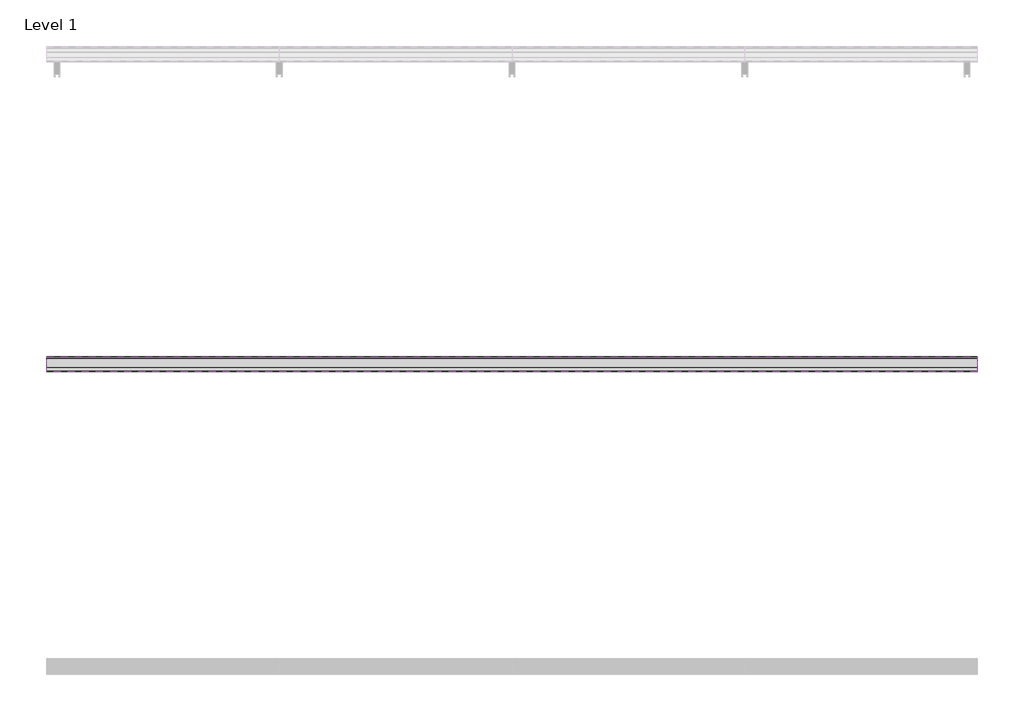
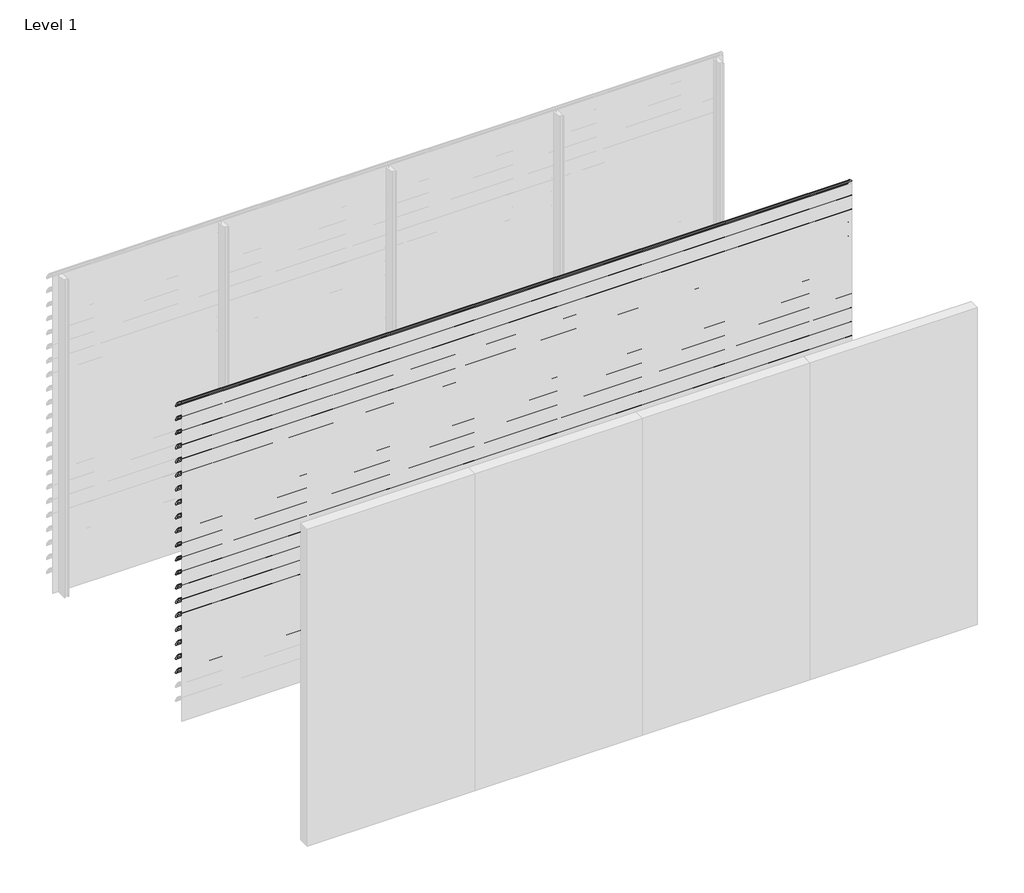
# One storey, part 36 of 57: 20 proxies.
"""IFC4 building model written with IfcOpenShell, lengths in millimetres."""

from ifc_helpers import new_model, si_unit, point, frame, frame_2d, origin, place, context, project, spatial, polyline, circle_curve, trimmed, segment, composite_curve, outline, extrude, element, save

model = new_model("IFC4")

# Units and contexts
model_context = context("Model", 3, world=origin())
ifc_project = project(units=[si_unit("LENGTHUNIT", "METRE", prefix="MILLI")], contexts=[model_context])

# Site, building, storey
site = spatial("IfcSite", under=ifc_project)
building = spatial("IfcBuilding", under=site)
storey = spatial("IfcBuildingStorey", under=building, Name="Level 1", Elevation=0.0)

# Proxies
placement = place(None, origin())
element("IfcBuildingElementProxy", 1, Name="Wall Sweeps", at=placement, inside=storey, context=model_context, shape_type="SweptSolid", body=[
    extrude(outline(composite_curve([segment(trimmed(circle_curve(frame_2d((-19993.7822526, 3016.4913792)), 4.2177474), [point((-19989.6985606, 3017.5462976))], [point((-19993.7822526, 3020.7091266))], False, "CARTESIAN"), True, "CONTINUOUS"), segment(trimmed(circle_curve(frame_2d((-20018.7150834, 2918.2536312)), 105.4456002), [point((-19993.7822526, 3020.7091266))], [point((-19971.7914298, 3012.6832099))], False, "CARTESIAN"), True, "CONTINUOUS"), segment(trimmed(circle_curve(frame_2d((-20061.7199745, 2864.0352476)), 173.7335887), [point((-19971.7914298, 3012.6832099))], [point((-19913.0720121, 2953.9637922))], False, "CARTESIAN"), True, "CONTINUOUS"), segment(trimmed(circle_curve(frame_2d((-20004.9297178, 2902.1860314)), 105.4456002), [point((-19913.0720121, 2953.9637922))], [point((-19903.6249616, 2931.4455765))], False, "CARTESIAN"), True, "CONTINUOUS"), segment(trimmed(circle_curve(frame_2d((-19907.809737, 2930.3307305)), 4.3307305), [point((-19903.6249616, 2931.4455765))], [point((-19909.0769196, 2926.189538))], False, "CARTESIAN"), True, "CONTINUOUS"), segment(polyline([(-19909.0769196, 2926.189538), (-19934.7401984, 2950.9722783)]), True, "CONTINUOUS"), segment(trimmed(circle_curve(frame_2d((-19931.3879574, 2953.2977626)), 4.079877), [point((-19934.7401984, 2950.9722783))], [point((-19930.7310597, 2957.3244091))], False, "CARTESIAN"), True, "CONTINUOUS"), segment(trimmed(circle_curve(frame_2d((-20014.6665585, 2935.2544323)), 86.7885467), [point((-19930.7310597, 2957.3244091))], [point((-19942.3028351, 2983.1683485))], True, "CARTESIAN"), True, "CONTINUOUS"), segment(polyline([(-19942.3028351, 2983.1683485), (-19940.7230099, 2985.9046861)]), True, "CONTINUOUS"), segment(trimmed(circle_curve(frame_2d((-20061.7199745, 2864.0352476)), 171.7335887), [point((-19940.7230099, 2985.9046861))], [point((-19972.7555872, 3010.9289618))], True, "CARTESIAN"), True, "CONTINUOUS"), segment(trimmed(circle_curve(frame_2d((-20018.7150834, 2918.2536312)), 103.4456002), [point((-19972.7555872, 3010.9289618))], [point((-19989.6985606, 3017.5462976))], True, "CARTESIAN"), True, "CONTINUOUS")], self_intersect=False)), frame((0.0, 0.0, 0.0), z_axis=(1.0, 0.0, 0.0), x_axis=(0.0, 1.0, 0.0)), (0.0, 0.0, 1.0), 6000.0),
])
element("IfcBuildingElementProxy", 2, Name="Wall Sweeps", at=placement, inside=storey, context=model_context, shape_type="SweptSolid", body=[
    extrude(outline(composite_curve([segment(trimmed(circle_curve(frame_2d((-19993.7822526, 2883.4913792)), 4.2177474), [point((-19989.6985606, 2884.5462976))], [point((-19993.7822526, 2887.7091266))], False, "CARTESIAN"), True, "CONTINUOUS"), segment(trimmed(circle_curve(frame_2d((-20018.7150834, 2785.2536312)), 105.4456002), [point((-19993.7822526, 2887.7091266))], [point((-19971.7914298, 2879.6832099))], False, "CARTESIAN"), True, "CONTINUOUS"), segment(trimmed(circle_curve(frame_2d((-20061.7199745, 2731.0352476)), 173.7335887), [point((-19971.7914298, 2879.6832099))], [point((-19913.0720121, 2820.9637922))], False, "CARTESIAN"), True, "CONTINUOUS"), segment(trimmed(circle_curve(frame_2d((-20004.9297178, 2769.1860314)), 105.4456002), [point((-19913.0720121, 2820.9637922))], [point((-19903.6249616, 2798.4455765))], False, "CARTESIAN"), True, "CONTINUOUS"), segment(trimmed(circle_curve(frame_2d((-19907.809737, 2797.3307305)), 4.3307305), [point((-19903.6249616, 2798.4455765))], [point((-19909.0769196, 2793.189538))], False, "CARTESIAN"), True, "CONTINUOUS"), segment(polyline([(-19909.0769196, 2793.189538), (-19934.7401984, 2817.9722783)]), True, "CONTINUOUS"), segment(trimmed(circle_curve(frame_2d((-19931.3879574, 2820.2977626)), 4.079877), [point((-19934.7401984, 2817.9722783))], [point((-19930.7310597, 2824.3244091))], False, "CARTESIAN"), True, "CONTINUOUS"), segment(trimmed(circle_curve(frame_2d((-20014.6665585, 2802.2544323)), 86.7885467), [point((-19930.7310597, 2824.3244091))], [point((-19942.3028351, 2850.1683485))], True, "CARTESIAN"), True, "CONTINUOUS"), segment(polyline([(-19942.3028351, 2850.1683485), (-19940.7230099, 2852.9046861)]), True, "CONTINUOUS"), segment(trimmed(circle_curve(frame_2d((-20061.7199745, 2731.0352476)), 171.7335887), [point((-19940.7230099, 2852.9046861))], [point((-19972.7555872, 2877.9289618))], True, "CARTESIAN"), True, "CONTINUOUS"), segment(trimmed(circle_curve(frame_2d((-20018.7150834, 2785.2536312)), 103.4456002), [point((-19972.7555872, 2877.9289618))], [point((-19989.6985606, 2884.5462976))], True, "CARTESIAN"), True, "CONTINUOUS")], self_intersect=False)), frame((0.0, 0.0, 0.0), z_axis=(1.0, 0.0, 0.0), x_axis=(0.0, 1.0, 0.0)), (0.0, 0.0, 1.0), 6000.0),
])
element("IfcBuildingElementProxy", 3, Name="Wall Sweeps", at=placement, inside=storey, context=model_context, shape_type="SweptSolid", body=[
    extrude(outline(composite_curve([segment(trimmed(circle_curve(frame_2d((-19993.7822526, 2750.4913792)), 4.2177474), [point((-19989.6985606, 2751.5462976))], [point((-19993.7822526, 2754.7091266))], False, "CARTESIAN"), True, "CONTINUOUS"), segment(trimmed(circle_curve(frame_2d((-20018.7150834, 2652.2536312)), 105.4456002), [point((-19993.7822526, 2754.7091266))], [point((-19971.7914298, 2746.6832099))], False, "CARTESIAN"), True, "CONTINUOUS"), segment(trimmed(circle_curve(frame_2d((-20061.7199745, 2598.0352476)), 173.7335887), [point((-19971.7914298, 2746.6832099))], [point((-19913.0720121, 2687.9637922))], False, "CARTESIAN"), True, "CONTINUOUS"), segment(trimmed(circle_curve(frame_2d((-20004.9297178, 2636.1860314)), 105.4456002), [point((-19913.0720121, 2687.9637922))], [point((-19903.6249616, 2665.4455765))], False, "CARTESIAN"), True, "CONTINUOUS"), segment(trimmed(circle_curve(frame_2d((-19907.809737, 2664.3307305)), 4.3307305), [point((-19903.6249616, 2665.4455765))], [point((-19909.0769196, 2660.189538))], False, "CARTESIAN"), True, "CONTINUOUS"), segment(polyline([(-19909.0769196, 2660.189538), (-19934.7401984, 2684.9722783)]), True, "CONTINUOUS"), segment(trimmed(circle_curve(frame_2d((-19931.3879574, 2687.2977626)), 4.079877), [point((-19934.7401984, 2684.9722783))], [point((-19930.7310597, 2691.3244091))], False, "CARTESIAN"), True, "CONTINUOUS"), segment(trimmed(circle_curve(frame_2d((-20014.6665585, 2669.2544323)), 86.7885467), [point((-19930.7310597, 2691.3244091))], [point((-19942.3028351, 2717.1683485))], True, "CARTESIAN"), True, "CONTINUOUS"), segment(polyline([(-19942.3028351, 2717.1683485), (-19940.7230099, 2719.9046861)]), True, "CONTINUOUS"), segment(trimmed(circle_curve(frame_2d((-20061.7199745, 2598.0352476)), 171.7335887), [point((-19940.7230099, 2719.9046861))], [point((-19972.7555872, 2744.9289618))], True, "CARTESIAN"), True, "CONTINUOUS"), segment(trimmed(circle_curve(frame_2d((-20018.7150834, 2652.2536312)), 103.4456002), [point((-19972.7555872, 2744.9289618))], [point((-19989.6985606, 2751.5462976))], True, "CARTESIAN"), True, "CONTINUOUS")], self_intersect=False)), frame((0.0, 0.0, 0.0), z_axis=(1.0, 0.0, 0.0), x_axis=(0.0, 1.0, 0.0)), (0.0, 0.0, 1.0), 6000.0),
])
element("IfcBuildingElementProxy", 4, Name="Wall Sweeps", at=placement, inside=storey, context=model_context, shape_type="SweptSolid", body=[
    extrude(outline(composite_curve([segment(trimmed(circle_curve(frame_2d((-19993.7822526, 2617.4913792)), 4.2177474), [point((-19989.6985606, 2618.5462976))], [point((-19993.7822526, 2621.7091266))], False, "CARTESIAN"), True, "CONTINUOUS"), segment(trimmed(circle_curve(frame_2d((-20018.7150834, 2519.2536312)), 105.4456002), [point((-19993.7822526, 2621.7091266))], [point((-19971.7914298, 2613.6832099))], False, "CARTESIAN"), True, "CONTINUOUS"), segment(trimmed(circle_curve(frame_2d((-20061.7199745, 2465.0352476)), 173.7335887), [point((-19971.7914298, 2613.6832099))], [point((-19913.0720121, 2554.9637922))], False, "CARTESIAN"), True, "CONTINUOUS"), segment(trimmed(circle_curve(frame_2d((-20004.9297178, 2503.1860314)), 105.4456002), [point((-19913.0720121, 2554.9637922))], [point((-19903.6249616, 2532.4455765))], False, "CARTESIAN"), True, "CONTINUOUS"), segment(trimmed(circle_curve(frame_2d((-19907.809737, 2531.3307305)), 4.3307305), [point((-19903.6249616, 2532.4455765))], [point((-19909.0769196, 2527.189538))], False, "CARTESIAN"), True, "CONTINUOUS"), segment(polyline([(-19909.0769196, 2527.189538), (-19934.7401984, 2551.9722783)]), True, "CONTINUOUS"), segment(trimmed(circle_curve(frame_2d((-19931.3879574, 2554.2977626)), 4.079877), [point((-19934.7401984, 2551.9722783))], [point((-19930.7310597, 2558.3244091))], False, "CARTESIAN"), True, "CONTINUOUS"), segment(trimmed(circle_curve(frame_2d((-20014.6665585, 2536.2544323)), 86.7885467), [point((-19930.7310597, 2558.3244091))], [point((-19942.3028351, 2584.1683485))], True, "CARTESIAN"), True, "CONTINUOUS"), segment(polyline([(-19942.3028351, 2584.1683485), (-19940.7230099, 2586.9046861)]), True, "CONTINUOUS"), segment(trimmed(circle_curve(frame_2d((-20061.7199745, 2465.0352476)), 171.7335887), [point((-19940.7230099, 2586.9046861))], [point((-19972.7555872, 2611.9289618))], True, "CARTESIAN"), True, "CONTINUOUS"), segment(trimmed(circle_curve(frame_2d((-20018.7150834, 2519.2536312)), 103.4456002), [point((-19972.7555872, 2611.9289618))], [point((-19989.6985606, 2618.5462976))], True, "CARTESIAN"), True, "CONTINUOUS")], self_intersect=False)), frame((0.0, 0.0, 0.0), z_axis=(1.0, 0.0, 0.0), x_axis=(0.0, 1.0, 0.0)), (0.0, 0.0, 1.0), 6000.0),
])
element("IfcBuildingElementProxy", 5, Name="Wall Sweeps", at=placement, inside=storey, context=model_context, shape_type="SweptSolid", body=[
    extrude(outline(composite_curve([segment(trimmed(circle_curve(frame_2d((-19993.7822526, 2484.4913792)), 4.2177474), [point((-19989.6985606, 2485.5462976))], [point((-19993.7822526, 2488.7091266))], False, "CARTESIAN"), True, "CONTINUOUS"), segment(trimmed(circle_curve(frame_2d((-20018.7150834, 2386.2536312)), 105.4456002), [point((-19993.7822526, 2488.7091266))], [point((-19971.7914298, 2480.6832099))], False, "CARTESIAN"), True, "CONTINUOUS"), segment(trimmed(circle_curve(frame_2d((-20061.7199745, 2332.0352476)), 173.7335887), [point((-19971.7914298, 2480.6832099))], [point((-19913.0720121, 2421.9637922))], False, "CARTESIAN"), True, "CONTINUOUS"), segment(trimmed(circle_curve(frame_2d((-20004.9297178, 2370.1860314)), 105.4456002), [point((-19913.0720121, 2421.9637922))], [point((-19903.6249616, 2399.4455765))], False, "CARTESIAN"), True, "CONTINUOUS"), segment(trimmed(circle_curve(frame_2d((-19907.809737, 2398.3307305)), 4.3307305), [point((-19903.6249616, 2399.4455765))], [point((-19909.0769196, 2394.189538))], False, "CARTESIAN"), True, "CONTINUOUS"), segment(polyline([(-19909.0769196, 2394.189538), (-19934.7401984, 2418.9722783)]), True, "CONTINUOUS"), segment(trimmed(circle_curve(frame_2d((-19931.3879574, 2421.2977626)), 4.079877), [point((-19934.7401984, 2418.9722783))], [point((-19930.7310597, 2425.3244091))], False, "CARTESIAN"), True, "CONTINUOUS"), segment(trimmed(circle_curve(frame_2d((-20014.6665585, 2403.2544323)), 86.7885467), [point((-19930.7310597, 2425.3244091))], [point((-19942.3028351, 2451.1683485))], True, "CARTESIAN"), True, "CONTINUOUS"), segment(polyline([(-19942.3028351, 2451.1683485), (-19940.7230099, 2453.9046861)]), True, "CONTINUOUS"), segment(trimmed(circle_curve(frame_2d((-20061.7199745, 2332.0352476)), 171.7335887), [point((-19940.7230099, 2453.9046861))], [point((-19972.7555872, 2478.9289618))], True, "CARTESIAN"), True, "CONTINUOUS"), segment(trimmed(circle_curve(frame_2d((-20018.7150834, 2386.2536312)), 103.4456002), [point((-19972.7555872, 2478.9289618))], [point((-19989.6985606, 2485.5462976))], True, "CARTESIAN"), True, "CONTINUOUS")], self_intersect=False)), frame((0.0, 0.0, 0.0), z_axis=(1.0, 0.0, 0.0), x_axis=(0.0, 1.0, 0.0)), (0.0, 0.0, 1.0), 6000.0),
])
element("IfcBuildingElementProxy", 6, Name="Wall Sweeps", at=placement, inside=storey, context=model_context, shape_type="SweptSolid", body=[
    extrude(outline(composite_curve([segment(trimmed(circle_curve(frame_2d((-19993.7822526, 2351.4913792)), 4.2177474), [point((-19989.6985606, 2352.5462976))], [point((-19993.7822526, 2355.7091266))], False, "CARTESIAN"), True, "CONTINUOUS"), segment(trimmed(circle_curve(frame_2d((-20018.7150834, 2253.2536312)), 105.4456002), [point((-19993.7822526, 2355.7091266))], [point((-19971.7914298, 2347.6832099))], False, "CARTESIAN"), True, "CONTINUOUS"), segment(trimmed(circle_curve(frame_2d((-20061.7199745, 2199.0352476)), 173.7335887), [point((-19971.7914298, 2347.6832099))], [point((-19913.0720121, 2288.9637922))], False, "CARTESIAN"), True, "CONTINUOUS"), segment(trimmed(circle_curve(frame_2d((-20004.9297178, 2237.1860314)), 105.4456002), [point((-19913.0720121, 2288.9637922))], [point((-19903.6249616, 2266.4455765))], False, "CARTESIAN"), True, "CONTINUOUS"), segment(trimmed(circle_curve(frame_2d((-19907.809737, 2265.3307305)), 4.3307305), [point((-19903.6249616, 2266.4455765))], [point((-19909.0769196, 2261.189538))], False, "CARTESIAN"), True, "CONTINUOUS"), segment(polyline([(-19909.0769196, 2261.189538), (-19934.7401984, 2285.9722783)]), True, "CONTINUOUS"), segment(trimmed(circle_curve(frame_2d((-19931.3879574, 2288.2977626)), 4.079877), [point((-19934.7401984, 2285.9722783))], [point((-19930.7310597, 2292.3244091))], False, "CARTESIAN"), True, "CONTINUOUS"), segment(trimmed(circle_curve(frame_2d((-20014.6665585, 2270.2544323)), 86.7885467), [point((-19930.7310597, 2292.3244091))], [point((-19942.3028351, 2318.1683485))], True, "CARTESIAN"), True, "CONTINUOUS"), segment(polyline([(-19942.3028351, 2318.1683485), (-19940.7230099, 2320.9046861)]), True, "CONTINUOUS"), segment(trimmed(circle_curve(frame_2d((-20061.7199745, 2199.0352476)), 171.7335887), [point((-19940.7230099, 2320.9046861))], [point((-19972.7555872, 2345.9289618))], True, "CARTESIAN"), True, "CONTINUOUS"), segment(trimmed(circle_curve(frame_2d((-20018.7150834, 2253.2536312)), 103.4456002), [point((-19972.7555872, 2345.9289618))], [point((-19989.6985606, 2352.5462976))], True, "CARTESIAN"), True, "CONTINUOUS")], self_intersect=False)), frame((0.0, 0.0, 0.0), z_axis=(1.0, 0.0, 0.0), x_axis=(0.0, 1.0, 0.0)), (0.0, 0.0, 1.0), 6000.0),
])
element("IfcBuildingElementProxy", 7, Name="Wall Sweeps", at=placement, inside=storey, context=model_context, shape_type="SweptSolid", body=[
    extrude(outline(composite_curve([segment(trimmed(circle_curve(frame_2d((-19993.7822526, 2218.4913792)), 4.2177474), [point((-19989.6985606, 2219.5462976))], [point((-19993.7822526, 2222.7091266))], False, "CARTESIAN"), True, "CONTINUOUS"), segment(trimmed(circle_curve(frame_2d((-20018.7150834, 2120.2536312)), 105.4456002), [point((-19993.7822526, 2222.7091266))], [point((-19971.7914298, 2214.6832099))], False, "CARTESIAN"), True, "CONTINUOUS"), segment(trimmed(circle_curve(frame_2d((-20061.7199745, 2066.0352476)), 173.7335887), [point((-19971.7914298, 2214.6832099))], [point((-19913.0720121, 2155.9637922))], False, "CARTESIAN"), True, "CONTINUOUS"), segment(trimmed(circle_curve(frame_2d((-20004.9297178, 2104.1860314)), 105.4456002), [point((-19913.0720121, 2155.9637922))], [point((-19903.6249616, 2133.4455765))], False, "CARTESIAN"), True, "CONTINUOUS"), segment(trimmed(circle_curve(frame_2d((-19907.809737, 2132.3307305)), 4.3307305), [point((-19903.6249616, 2133.4455765))], [point((-19909.0769196, 2128.189538))], False, "CARTESIAN"), True, "CONTINUOUS"), segment(polyline([(-19909.0769196, 2128.189538), (-19934.7401984, 2152.9722783)]), True, "CONTINUOUS"), segment(trimmed(circle_curve(frame_2d((-19931.3879574, 2155.2977626)), 4.079877), [point((-19934.7401984, 2152.9722783))], [point((-19930.7310597, 2159.3244091))], False, "CARTESIAN"), True, "CONTINUOUS"), segment(trimmed(circle_curve(frame_2d((-20014.6665585, 2137.2544323)), 86.7885467), [point((-19930.7310597, 2159.3244091))], [point((-19942.3028351, 2185.1683485))], True, "CARTESIAN"), True, "CONTINUOUS"), segment(polyline([(-19942.3028351, 2185.1683485), (-19940.7230099, 2187.9046861)]), True, "CONTINUOUS"), segment(trimmed(circle_curve(frame_2d((-20061.7199745, 2066.0352476)), 171.7335887), [point((-19940.7230099, 2187.9046861))], [point((-19972.7555872, 2212.9289618))], True, "CARTESIAN"), True, "CONTINUOUS"), segment(trimmed(circle_curve(frame_2d((-20018.7150834, 2120.2536312)), 103.4456002), [point((-19972.7555872, 2212.9289618))], [point((-19989.6985606, 2219.5462976))], True, "CARTESIAN"), True, "CONTINUOUS")], self_intersect=False)), frame((0.0, 0.0, 0.0), z_axis=(1.0, 0.0, 0.0), x_axis=(0.0, 1.0, 0.0)), (0.0, 0.0, 1.0), 6000.0),
])
element("IfcBuildingElementProxy", 8, Name="Wall Sweeps", at=placement, inside=storey, context=model_context, shape_type="SweptSolid", body=[
    extrude(outline(composite_curve([segment(trimmed(circle_curve(frame_2d((-19993.7822526, 2085.4913792)), 4.2177474), [point((-19989.6985606, 2086.5462976))], [point((-19993.7822526, 2089.7091266))], False, "CARTESIAN"), True, "CONTINUOUS"), segment(trimmed(circle_curve(frame_2d((-20018.7150834, 1987.2536312)), 105.4456002), [point((-19993.7822526, 2089.7091266))], [point((-19971.7914298, 2081.6832099))], False, "CARTESIAN"), True, "CONTINUOUS"), segment(trimmed(circle_curve(frame_2d((-20061.7199745, 1933.0352476)), 173.7335887), [point((-19971.7914298, 2081.6832099))], [point((-19913.0720121, 2022.9637922))], False, "CARTESIAN"), True, "CONTINUOUS"), segment(trimmed(circle_curve(frame_2d((-20004.9297178, 1971.1860314)), 105.4456002), [point((-19913.0720121, 2022.9637922))], [point((-19903.6249616, 2000.4455765))], False, "CARTESIAN"), True, "CONTINUOUS"), segment(trimmed(circle_curve(frame_2d((-19907.809737, 1999.3307305)), 4.3307305), [point((-19903.6249616, 2000.4455765))], [point((-19909.0769196, 1995.189538))], False, "CARTESIAN"), True, "CONTINUOUS"), segment(polyline([(-19909.0769196, 1995.189538), (-19934.7401984, 2019.9722783)]), True, "CONTINUOUS"), segment(trimmed(circle_curve(frame_2d((-19931.3879574, 2022.2977626)), 4.079877), [point((-19934.7401984, 2019.9722783))], [point((-19930.7310597, 2026.3244091))], False, "CARTESIAN"), True, "CONTINUOUS"), segment(trimmed(circle_curve(frame_2d((-20014.6665585, 2004.2544323)), 86.7885467), [point((-19930.7310597, 2026.3244091))], [point((-19942.3028351, 2052.1683485))], True, "CARTESIAN"), True, "CONTINUOUS"), segment(polyline([(-19942.3028351, 2052.1683485), (-19940.7230099, 2054.9046861)]), True, "CONTINUOUS"), segment(trimmed(circle_curve(frame_2d((-20061.7199745, 1933.0352476)), 171.7335887), [point((-19940.7230099, 2054.9046861))], [point((-19972.7555872, 2079.9289618))], True, "CARTESIAN"), True, "CONTINUOUS"), segment(trimmed(circle_curve(frame_2d((-20018.7150834, 1987.2536312)), 103.4456002), [point((-19972.7555872, 2079.9289618))], [point((-19989.6985606, 2086.5462976))], True, "CARTESIAN"), True, "CONTINUOUS")], self_intersect=False)), frame((0.0, 0.0, 0.0), z_axis=(1.0, 0.0, 0.0), x_axis=(0.0, 1.0, 0.0)), (0.0, 0.0, 1.0), 6000.0),
])
element("IfcBuildingElementProxy", 9, Name="Wall Sweeps", at=placement, inside=storey, context=model_context, shape_type="SweptSolid", body=[
    extrude(outline(composite_curve([segment(trimmed(circle_curve(frame_2d((-19993.7822526, 1952.4913792)), 4.2177474), [point((-19989.6985606, 1953.5462976))], [point((-19993.7822526, 1956.7091266))], False, "CARTESIAN"), True, "CONTINUOUS"), segment(trimmed(circle_curve(frame_2d((-20018.7150834, 1854.2536312)), 105.4456002), [point((-19993.7822526, 1956.7091266))], [point((-19971.7914298, 1948.6832099))], False, "CARTESIAN"), True, "CONTINUOUS"), segment(trimmed(circle_curve(frame_2d((-20061.7199745, 1800.0352476)), 173.7335887), [point((-19971.7914298, 1948.6832099))], [point((-19913.0720121, 1889.9637922))], False, "CARTESIAN"), True, "CONTINUOUS"), segment(trimmed(circle_curve(frame_2d((-20004.9297178, 1838.1860314)), 105.4456002), [point((-19913.0720121, 1889.9637922))], [point((-19903.6249616, 1867.4455765))], False, "CARTESIAN"), True, "CONTINUOUS"), segment(trimmed(circle_curve(frame_2d((-19907.809737, 1866.3307305)), 4.3307305), [point((-19903.6249616, 1867.4455765))], [point((-19909.0769196, 1862.189538))], False, "CARTESIAN"), True, "CONTINUOUS"), segment(polyline([(-19909.0769196, 1862.189538), (-19934.7401984, 1886.9722783)]), True, "CONTINUOUS"), segment(trimmed(circle_curve(frame_2d((-19931.3879574, 1889.2977626)), 4.079877), [point((-19934.7401984, 1886.9722783))], [point((-19930.7310597, 1893.3244091))], False, "CARTESIAN"), True, "CONTINUOUS"), segment(trimmed(circle_curve(frame_2d((-20014.6665585, 1871.2544323)), 86.7885467), [point((-19930.7310597, 1893.3244091))], [point((-19942.3028351, 1919.1683485))], True, "CARTESIAN"), True, "CONTINUOUS"), segment(polyline([(-19942.3028351, 1919.1683485), (-19940.7230099, 1921.9046861)]), True, "CONTINUOUS"), segment(trimmed(circle_curve(frame_2d((-20061.7199745, 1800.0352476)), 171.7335887), [point((-19940.7230099, 1921.9046861))], [point((-19972.7555872, 1946.9289618))], True, "CARTESIAN"), True, "CONTINUOUS"), segment(trimmed(circle_curve(frame_2d((-20018.7150834, 1854.2536312)), 103.4456002), [point((-19972.7555872, 1946.9289618))], [point((-19989.6985606, 1953.5462976))], True, "CARTESIAN"), True, "CONTINUOUS")], self_intersect=False)), frame((0.0, 0.0, 0.0), z_axis=(1.0, 0.0, 0.0), x_axis=(0.0, 1.0, 0.0)), (0.0, 0.0, 1.0), 6000.0),
])
element("IfcBuildingElementProxy", 10, Name="Wall Sweeps", at=placement, inside=storey, context=model_context, shape_type="SweptSolid", body=[
    extrude(outline(composite_curve([segment(trimmed(circle_curve(frame_2d((-19993.7822526, 1819.4913792)), 4.2177474), [point((-19989.6985606, 1820.5462976))], [point((-19993.7822526, 1823.7091266))], False, "CARTESIAN"), True, "CONTINUOUS"), segment(trimmed(circle_curve(frame_2d((-20018.7150834, 1721.2536312)), 105.4456002), [point((-19993.7822526, 1823.7091266))], [point((-19971.7914298, 1815.6832099))], False, "CARTESIAN"), True, "CONTINUOUS"), segment(trimmed(circle_curve(frame_2d((-20061.7199745, 1667.0352476)), 173.7335887), [point((-19971.7914298, 1815.6832099))], [point((-19913.0720121, 1756.9637922))], False, "CARTESIAN"), True, "CONTINUOUS"), segment(trimmed(circle_curve(frame_2d((-20004.9297178, 1705.1860314)), 105.4456002), [point((-19913.0720121, 1756.9637922))], [point((-19903.6249616, 1734.4455765))], False, "CARTESIAN"), True, "CONTINUOUS"), segment(trimmed(circle_curve(frame_2d((-19907.809737, 1733.3307305)), 4.3307305), [point((-19903.6249616, 1734.4455765))], [point((-19909.0769196, 1729.189538))], False, "CARTESIAN"), True, "CONTINUOUS"), segment(polyline([(-19909.0769196, 1729.189538), (-19934.7401984, 1753.9722783)]), True, "CONTINUOUS"), segment(trimmed(circle_curve(frame_2d((-19931.3879574, 1756.2977626)), 4.079877), [point((-19934.7401984, 1753.9722783))], [point((-19930.7310597, 1760.3244091))], False, "CARTESIAN"), True, "CONTINUOUS"), segment(trimmed(circle_curve(frame_2d((-20014.6665585, 1738.2544323)), 86.7885467), [point((-19930.7310597, 1760.3244091))], [point((-19942.3028351, 1786.1683485))], True, "CARTESIAN"), True, "CONTINUOUS"), segment(polyline([(-19942.3028351, 1786.1683485), (-19940.7230099, 1788.9046861)]), True, "CONTINUOUS"), segment(trimmed(circle_curve(frame_2d((-20061.7199745, 1667.0352476)), 171.7335887), [point((-19940.7230099, 1788.9046861))], [point((-19972.7555872, 1813.9289618))], True, "CARTESIAN"), True, "CONTINUOUS"), segment(trimmed(circle_curve(frame_2d((-20018.7150834, 1721.2536312)), 103.4456002), [point((-19972.7555872, 1813.9289618))], [point((-19989.6985606, 1820.5462976))], True, "CARTESIAN"), True, "CONTINUOUS")], self_intersect=False)), frame((0.0, 0.0, 0.0), z_axis=(1.0, 0.0, 0.0), x_axis=(0.0, 1.0, 0.0)), (0.0, 0.0, 1.0), 6000.0),
])
element("IfcBuildingElementProxy", 11, Name="Wall Sweeps", at=placement, inside=storey, context=model_context, shape_type="SweptSolid", body=[
    extrude(outline(composite_curve([segment(trimmed(circle_curve(frame_2d((-19993.7822526, 1686.4913792)), 4.2177474), [point((-19989.6985606, 1687.5462976))], [point((-19993.7822526, 1690.7091266))], False, "CARTESIAN"), True, "CONTINUOUS"), segment(trimmed(circle_curve(frame_2d((-20018.7150834, 1588.2536312)), 105.4456002), [point((-19993.7822526, 1690.7091266))], [point((-19971.7914298, 1682.6832099))], False, "CARTESIAN"), True, "CONTINUOUS"), segment(trimmed(circle_curve(frame_2d((-20061.7199745, 1534.0352476)), 173.7335887), [point((-19971.7914298, 1682.6832099))], [point((-19913.0720121, 1623.9637922))], False, "CARTESIAN"), True, "CONTINUOUS"), segment(trimmed(circle_curve(frame_2d((-20004.9297178, 1572.1860314)), 105.4456002), [point((-19913.0720121, 1623.9637922))], [point((-19903.6249616, 1601.4455765))], False, "CARTESIAN"), True, "CONTINUOUS"), segment(trimmed(circle_curve(frame_2d((-19907.809737, 1600.3307305)), 4.3307305), [point((-19903.6249616, 1601.4455765))], [point((-19909.0769196, 1596.189538))], False, "CARTESIAN"), True, "CONTINUOUS"), segment(polyline([(-19909.0769196, 1596.189538), (-19934.7401984, 1620.9722783)]), True, "CONTINUOUS"), segment(trimmed(circle_curve(frame_2d((-19931.3879574, 1623.2977626)), 4.079877), [point((-19934.7401984, 1620.9722783))], [point((-19930.7310597, 1627.3244091))], False, "CARTESIAN"), True, "CONTINUOUS"), segment(trimmed(circle_curve(frame_2d((-20014.6665585, 1605.2544323)), 86.7885467), [point((-19930.7310597, 1627.3244091))], [point((-19942.3028351, 1653.1683485))], True, "CARTESIAN"), True, "CONTINUOUS"), segment(polyline([(-19942.3028351, 1653.1683485), (-19940.7230099, 1655.9046861)]), True, "CONTINUOUS"), segment(trimmed(circle_curve(frame_2d((-20061.7199745, 1534.0352476)), 171.7335887), [point((-19940.7230099, 1655.9046861))], [point((-19972.7555872, 1680.9289618))], True, "CARTESIAN"), True, "CONTINUOUS"), segment(trimmed(circle_curve(frame_2d((-20018.7150834, 1588.2536312)), 103.4456002), [point((-19972.7555872, 1680.9289618))], [point((-19989.6985606, 1687.5462976))], True, "CARTESIAN"), True, "CONTINUOUS")], self_intersect=False)), frame((0.0, 0.0, 0.0), z_axis=(1.0, 0.0, 0.0), x_axis=(0.0, 1.0, 0.0)), (0.0, 0.0, 1.0), 6000.0),
])
element("IfcBuildingElementProxy", 12, Name="Wall Sweeps", at=placement, inside=storey, context=model_context, shape_type="SweptSolid", body=[
    extrude(outline(composite_curve([segment(trimmed(circle_curve(frame_2d((-19993.7822526, 1553.4913792)), 4.2177474), [point((-19989.6985606, 1554.5462976))], [point((-19993.7822526, 1557.7091266))], False, "CARTESIAN"), True, "CONTINUOUS"), segment(trimmed(circle_curve(frame_2d((-20018.7150834, 1455.2536312)), 105.4456002), [point((-19993.7822526, 1557.7091266))], [point((-19971.7914298, 1549.6832099))], False, "CARTESIAN"), True, "CONTINUOUS"), segment(trimmed(circle_curve(frame_2d((-20061.7199745, 1401.0352476)), 173.7335887), [point((-19971.7914298, 1549.6832099))], [point((-19913.0720121, 1490.9637922))], False, "CARTESIAN"), True, "CONTINUOUS"), segment(trimmed(circle_curve(frame_2d((-20004.9297178, 1439.1860314)), 105.4456002), [point((-19913.0720121, 1490.9637922))], [point((-19903.6249616, 1468.4455765))], False, "CARTESIAN"), True, "CONTINUOUS"), segment(trimmed(circle_curve(frame_2d((-19907.809737, 1467.3307305)), 4.3307305), [point((-19903.6249616, 1468.4455765))], [point((-19909.0769196, 1463.189538))], False, "CARTESIAN"), True, "CONTINUOUS"), segment(polyline([(-19909.0769196, 1463.189538), (-19934.7401984, 1487.9722783)]), True, "CONTINUOUS"), segment(trimmed(circle_curve(frame_2d((-19931.3879574, 1490.2977626)), 4.079877), [point((-19934.7401984, 1487.9722783))], [point((-19930.7310597, 1494.3244091))], False, "CARTESIAN"), True, "CONTINUOUS"), segment(trimmed(circle_curve(frame_2d((-20014.6665585, 1472.2544323)), 86.7885467), [point((-19930.7310597, 1494.3244091))], [point((-19942.3028351, 1520.1683485))], True, "CARTESIAN"), True, "CONTINUOUS"), segment(polyline([(-19942.3028351, 1520.1683485), (-19940.7230099, 1522.9046861)]), True, "CONTINUOUS"), segment(trimmed(circle_curve(frame_2d((-20061.7199745, 1401.0352476)), 171.7335887), [point((-19940.7230099, 1522.9046861))], [point((-19972.7555872, 1547.9289618))], True, "CARTESIAN"), True, "CONTINUOUS"), segment(trimmed(circle_curve(frame_2d((-20018.7150834, 1455.2536312)), 103.4456002), [point((-19972.7555872, 1547.9289618))], [point((-19989.6985606, 1554.5462976))], True, "CARTESIAN"), True, "CONTINUOUS")], self_intersect=False)), frame((0.0, 0.0, 0.0), z_axis=(1.0, 0.0, 0.0), x_axis=(0.0, 1.0, 0.0)), (0.0, 0.0, 1.0), 6000.0),
])
element("IfcBuildingElementProxy", 13, Name="Wall Sweeps", at=placement, inside=storey, context=model_context, shape_type="SweptSolid", body=[
    extrude(outline(composite_curve([segment(trimmed(circle_curve(frame_2d((-19993.7822526, 1420.4913792)), 4.2177474), [point((-19989.6985606, 1421.5462976))], [point((-19993.7822526, 1424.7091266))], False, "CARTESIAN"), True, "CONTINUOUS"), segment(trimmed(circle_curve(frame_2d((-20018.7150834, 1322.2536312)), 105.4456002), [point((-19993.7822526, 1424.7091266))], [point((-19971.7914298, 1416.6832099))], False, "CARTESIAN"), True, "CONTINUOUS"), segment(trimmed(circle_curve(frame_2d((-20061.7199745, 1268.0352476)), 173.7335887), [point((-19971.7914298, 1416.6832099))], [point((-19913.0720121, 1357.9637922))], False, "CARTESIAN"), True, "CONTINUOUS"), segment(trimmed(circle_curve(frame_2d((-20004.9297178, 1306.1860314)), 105.4456002), [point((-19913.0720121, 1357.9637922))], [point((-19903.6249616, 1335.4455765))], False, "CARTESIAN"), True, "CONTINUOUS"), segment(trimmed(circle_curve(frame_2d((-19907.809737, 1334.3307305)), 4.3307305), [point((-19903.6249616, 1335.4455765))], [point((-19909.0769196, 1330.189538))], False, "CARTESIAN"), True, "CONTINUOUS"), segment(polyline([(-19909.0769196, 1330.189538), (-19934.7401984, 1354.9722783)]), True, "CONTINUOUS"), segment(trimmed(circle_curve(frame_2d((-19931.3879574, 1357.2977626)), 4.079877), [point((-19934.7401984, 1354.9722783))], [point((-19930.7310597, 1361.3244091))], False, "CARTESIAN"), True, "CONTINUOUS"), segment(trimmed(circle_curve(frame_2d((-20014.6665585, 1339.2544323)), 86.7885467), [point((-19930.7310597, 1361.3244091))], [point((-19942.3028351, 1387.1683485))], True, "CARTESIAN"), True, "CONTINUOUS"), segment(polyline([(-19942.3028351, 1387.1683485), (-19940.7230099, 1389.9046861)]), True, "CONTINUOUS"), segment(trimmed(circle_curve(frame_2d((-20061.7199745, 1268.0352476)), 171.7335887), [point((-19940.7230099, 1389.9046861))], [point((-19972.7555872, 1414.9289618))], True, "CARTESIAN"), True, "CONTINUOUS"), segment(trimmed(circle_curve(frame_2d((-20018.7150834, 1322.2536312)), 103.4456002), [point((-19972.7555872, 1414.9289618))], [point((-19989.6985606, 1421.5462976))], True, "CARTESIAN"), True, "CONTINUOUS")], self_intersect=False)), frame((0.0, 0.0, 0.0), z_axis=(1.0, 0.0, 0.0), x_axis=(0.0, 1.0, 0.0)), (0.0, 0.0, 1.0), 6000.0),
])
element("IfcBuildingElementProxy", 14, Name="Wall Sweeps", at=placement, inside=storey, context=model_context, shape_type="SweptSolid", body=[
    extrude(outline(composite_curve([segment(trimmed(circle_curve(frame_2d((-19993.7822526, 1287.4913792)), 4.2177474), [point((-19989.6985606, 1288.5462976))], [point((-19993.7822526, 1291.7091266))], False, "CARTESIAN"), True, "CONTINUOUS"), segment(trimmed(circle_curve(frame_2d((-20018.7150834, 1189.2536312)), 105.4456002), [point((-19993.7822526, 1291.7091266))], [point((-19971.7914298, 1283.6832099))], False, "CARTESIAN"), True, "CONTINUOUS"), segment(trimmed(circle_curve(frame_2d((-20061.7199745, 1135.0352476)), 173.7335887), [point((-19971.7914298, 1283.6832099))], [point((-19913.0720121, 1224.9637922))], False, "CARTESIAN"), True, "CONTINUOUS"), segment(trimmed(circle_curve(frame_2d((-20004.9297178, 1173.1860314)), 105.4456002), [point((-19913.0720121, 1224.9637922))], [point((-19903.6249616, 1202.4455765))], False, "CARTESIAN"), True, "CONTINUOUS"), segment(trimmed(circle_curve(frame_2d((-19907.809737, 1201.3307305)), 4.3307305), [point((-19903.6249616, 1202.4455765))], [point((-19909.0769196, 1197.189538))], False, "CARTESIAN"), True, "CONTINUOUS"), segment(polyline([(-19909.0769196, 1197.189538), (-19934.7401984, 1221.9722783)]), True, "CONTINUOUS"), segment(trimmed(circle_curve(frame_2d((-19931.3879574, 1224.2977626)), 4.079877), [point((-19934.7401984, 1221.9722783))], [point((-19930.7310597, 1228.3244091))], False, "CARTESIAN"), True, "CONTINUOUS"), segment(trimmed(circle_curve(frame_2d((-20014.6665585, 1206.2544323)), 86.7885467), [point((-19930.7310597, 1228.3244091))], [point((-19942.3028351, 1254.1683485))], True, "CARTESIAN"), True, "CONTINUOUS"), segment(polyline([(-19942.3028351, 1254.1683485), (-19940.7230099, 1256.9046861)]), True, "CONTINUOUS"), segment(trimmed(circle_curve(frame_2d((-20061.7199745, 1135.0352476)), 171.7335887), [point((-19940.7230099, 1256.9046861))], [point((-19972.7555872, 1281.9289618))], True, "CARTESIAN"), True, "CONTINUOUS"), segment(trimmed(circle_curve(frame_2d((-20018.7150834, 1189.2536312)), 103.4456002), [point((-19972.7555872, 1281.9289618))], [point((-19989.6985606, 1288.5462976))], True, "CARTESIAN"), True, "CONTINUOUS")], self_intersect=False)), frame((0.0, 0.0, 0.0), z_axis=(1.0, 0.0, 0.0), x_axis=(0.0, 1.0, 0.0)), (0.0, 0.0, 1.0), 6000.0),
])
element("IfcBuildingElementProxy", 15, Name="Wall Sweeps", at=placement, inside=storey, context=model_context, shape_type="SweptSolid", body=[
    extrude(outline(composite_curve([segment(trimmed(circle_curve(frame_2d((-19993.7822526, 1154.4913792)), 4.2177474), [point((-19989.6985606, 1155.5462976))], [point((-19993.7822526, 1158.7091266))], False, "CARTESIAN"), True, "CONTINUOUS"), segment(trimmed(circle_curve(frame_2d((-20018.7150834, 1056.2536312)), 105.4456002), [point((-19993.7822526, 1158.7091266))], [point((-19971.7914298, 1150.6832099))], False, "CARTESIAN"), True, "CONTINUOUS"), segment(trimmed(circle_curve(frame_2d((-20061.7199745, 1002.0352476)), 173.7335887), [point((-19971.7914298, 1150.6832099))], [point((-19913.0720121, 1091.9637922))], False, "CARTESIAN"), True, "CONTINUOUS"), segment(trimmed(circle_curve(frame_2d((-20004.9297178, 1040.1860314)), 105.4456002), [point((-19913.0720121, 1091.9637922))], [point((-19903.6249616, 1069.4455765))], False, "CARTESIAN"), True, "CONTINUOUS"), segment(trimmed(circle_curve(frame_2d((-19907.809737, 1068.3307305)), 4.3307305), [point((-19903.6249616, 1069.4455765))], [point((-19909.0769196, 1064.189538))], False, "CARTESIAN"), True, "CONTINUOUS"), segment(polyline([(-19909.0769196, 1064.189538), (-19934.7401984, 1088.9722783)]), True, "CONTINUOUS"), segment(trimmed(circle_curve(frame_2d((-19931.3879574, 1091.2977626)), 4.079877), [point((-19934.7401984, 1088.9722783))], [point((-19930.7310597, 1095.3244091))], False, "CARTESIAN"), True, "CONTINUOUS"), segment(trimmed(circle_curve(frame_2d((-20014.6665585, 1073.2544323)), 86.7885467), [point((-19930.7310597, 1095.3244091))], [point((-19942.3028351, 1121.1683485))], True, "CARTESIAN"), True, "CONTINUOUS"), segment(polyline([(-19942.3028351, 1121.1683485), (-19940.7230099, 1123.9046861)]), True, "CONTINUOUS"), segment(trimmed(circle_curve(frame_2d((-20061.7199745, 1002.0352476)), 171.7335887), [point((-19940.7230099, 1123.9046861))], [point((-19972.7555872, 1148.9289618))], True, "CARTESIAN"), True, "CONTINUOUS"), segment(trimmed(circle_curve(frame_2d((-20018.7150834, 1056.2536312)), 103.4456002), [point((-19972.7555872, 1148.9289618))], [point((-19989.6985606, 1155.5462976))], True, "CARTESIAN"), True, "CONTINUOUS")], self_intersect=False)), frame((0.0, 0.0, 0.0), z_axis=(1.0, 0.0, 0.0), x_axis=(0.0, 1.0, 0.0)), (0.0, 0.0, 1.0), 6000.0),
])
element("IfcBuildingElementProxy", 16, Name="Wall Sweeps", at=placement, inside=storey, context=model_context, shape_type="SweptSolid", body=[
    extrude(outline(composite_curve([segment(trimmed(circle_curve(frame_2d((-19993.7822526, 1021.4913792)), 4.2177474), [point((-19989.6985606, 1022.5462976))], [point((-19993.7822526, 1025.7091266))], False, "CARTESIAN"), True, "CONTINUOUS"), segment(trimmed(circle_curve(frame_2d((-20018.7150834, 923.2536312)), 105.4456002), [point((-19993.7822526, 1025.7091266))], [point((-19971.7914298, 1017.6832099))], False, "CARTESIAN"), True, "CONTINUOUS"), segment(trimmed(circle_curve(frame_2d((-20061.7199745, 869.0352476)), 173.7335887), [point((-19971.7914298, 1017.6832099))], [point((-19913.0720121, 958.9637922))], False, "CARTESIAN"), True, "CONTINUOUS"), segment(trimmed(circle_curve(frame_2d((-20004.9297178, 907.1860314)), 105.4456002), [point((-19913.0720121, 958.9637922))], [point((-19903.6249616, 936.4455765))], False, "CARTESIAN"), True, "CONTINUOUS"), segment(trimmed(circle_curve(frame_2d((-19907.809737, 935.3307305)), 4.3307305), [point((-19903.6249616, 936.4455765))], [point((-19909.0769196, 931.189538))], False, "CARTESIAN"), True, "CONTINUOUS"), segment(polyline([(-19909.0769196, 931.189538), (-19934.7401984, 955.9722783)]), True, "CONTINUOUS"), segment(trimmed(circle_curve(frame_2d((-19931.3879574, 958.2977626)), 4.079877), [point((-19934.7401984, 955.9722783))], [point((-19930.7310597, 962.3244091))], False, "CARTESIAN"), True, "CONTINUOUS"), segment(trimmed(circle_curve(frame_2d((-20014.6665585, 940.2544323)), 86.7885467), [point((-19930.7310597, 962.3244091))], [point((-19942.3028351, 988.1683485))], True, "CARTESIAN"), True, "CONTINUOUS"), segment(polyline([(-19942.3028351, 988.1683485), (-19940.7230099, 990.9046861)]), True, "CONTINUOUS"), segment(trimmed(circle_curve(frame_2d((-20061.7199745, 869.0352476)), 171.7335887), [point((-19940.7230099, 990.9046861))], [point((-19972.7555872, 1015.9289618))], True, "CARTESIAN"), True, "CONTINUOUS"), segment(trimmed(circle_curve(frame_2d((-20018.7150834, 923.2536312)), 103.4456002), [point((-19972.7555872, 1015.9289618))], [point((-19989.6985606, 1022.5462976))], True, "CARTESIAN"), True, "CONTINUOUS")], self_intersect=False)), frame((0.0, 0.0, 0.0), z_axis=(1.0, 0.0, 0.0), x_axis=(0.0, 1.0, 0.0)), (0.0, 0.0, 1.0), 6000.0),
])
element("IfcBuildingElementProxy", 17, Name="Wall Sweeps", at=placement, inside=storey, context=model_context, shape_type="SweptSolid", body=[
    extrude(outline(composite_curve([segment(trimmed(circle_curve(frame_2d((-19993.7822526, 888.4913792)), 4.2177474), [point((-19989.6985606, 889.5462976))], [point((-19993.7822526, 892.7091266))], False, "CARTESIAN"), True, "CONTINUOUS"), segment(trimmed(circle_curve(frame_2d((-20018.7150834, 790.2536312)), 105.4456002), [point((-19993.7822526, 892.7091266))], [point((-19971.7914298, 884.6832099))], False, "CARTESIAN"), True, "CONTINUOUS"), segment(trimmed(circle_curve(frame_2d((-20061.7199745, 736.0352476)), 173.7335887), [point((-19971.7914298, 884.6832099))], [point((-19913.0720121, 825.9637922))], False, "CARTESIAN"), True, "CONTINUOUS"), segment(trimmed(circle_curve(frame_2d((-20004.9297178, 774.1860314)), 105.4456002), [point((-19913.0720121, 825.9637922))], [point((-19903.6249616, 803.4455765))], False, "CARTESIAN"), True, "CONTINUOUS"), segment(trimmed(circle_curve(frame_2d((-19907.809737, 802.3307305)), 4.3307305), [point((-19903.6249616, 803.4455765))], [point((-19909.0769196, 798.189538))], False, "CARTESIAN"), True, "CONTINUOUS"), segment(polyline([(-19909.0769196, 798.189538), (-19934.7401984, 822.9722783)]), True, "CONTINUOUS"), segment(trimmed(circle_curve(frame_2d((-19931.3879574, 825.2977626)), 4.079877), [point((-19934.7401984, 822.9722783))], [point((-19930.7310597, 829.3244091))], False, "CARTESIAN"), True, "CONTINUOUS"), segment(trimmed(circle_curve(frame_2d((-20014.6665585, 807.2544323)), 86.7885467), [point((-19930.7310597, 829.3244091))], [point((-19942.3028351, 855.1683485))], True, "CARTESIAN"), True, "CONTINUOUS"), segment(polyline([(-19942.3028351, 855.1683485), (-19940.7230099, 857.9046861)]), True, "CONTINUOUS"), segment(trimmed(circle_curve(frame_2d((-20061.7199745, 736.0352476)), 171.7335887), [point((-19940.7230099, 857.9046861))], [point((-19972.7555872, 882.9289618))], True, "CARTESIAN"), True, "CONTINUOUS"), segment(trimmed(circle_curve(frame_2d((-20018.7150834, 790.2536312)), 103.4456002), [point((-19972.7555872, 882.9289618))], [point((-19989.6985606, 889.5462976))], True, "CARTESIAN"), True, "CONTINUOUS")], self_intersect=False)), frame((0.0, 0.0, 0.0), z_axis=(1.0, 0.0, 0.0), x_axis=(0.0, 1.0, 0.0)), (0.0, 0.0, 1.0), 6000.0),
])
element("IfcBuildingElementProxy", 18, Name="Wall Sweeps", at=placement, inside=storey, context=model_context, shape_type="SweptSolid", body=[
    extrude(outline(composite_curve([segment(trimmed(circle_curve(frame_2d((-19993.7822526, 755.4913792)), 4.2177474), [point((-19989.6985606, 756.5462976))], [point((-19993.7822526, 759.7091266))], False, "CARTESIAN"), True, "CONTINUOUS"), segment(trimmed(circle_curve(frame_2d((-20018.7150834, 657.2536312)), 105.4456002), [point((-19993.7822526, 759.7091266))], [point((-19971.7914298, 751.6832099))], False, "CARTESIAN"), True, "CONTINUOUS"), segment(trimmed(circle_curve(frame_2d((-20061.7199745, 603.0352476)), 173.7335887), [point((-19971.7914298, 751.6832099))], [point((-19913.0720121, 692.9637922))], False, "CARTESIAN"), True, "CONTINUOUS"), segment(trimmed(circle_curve(frame_2d((-20004.9297178, 641.1860314)), 105.4456002), [point((-19913.0720121, 692.9637922))], [point((-19903.6249616, 670.4455765))], False, "CARTESIAN"), True, "CONTINUOUS"), segment(trimmed(circle_curve(frame_2d((-19907.809737, 669.3307305)), 4.3307305), [point((-19903.6249616, 670.4455765))], [point((-19909.0769196, 665.189538))], False, "CARTESIAN"), True, "CONTINUOUS"), segment(polyline([(-19909.0769196, 665.189538), (-19934.7401984, 689.9722783)]), True, "CONTINUOUS"), segment(trimmed(circle_curve(frame_2d((-19931.3879574, 692.2977626)), 4.079877), [point((-19934.7401984, 689.9722783))], [point((-19930.7310597, 696.3244091))], False, "CARTESIAN"), True, "CONTINUOUS"), segment(trimmed(circle_curve(frame_2d((-20014.6665585, 674.2544323)), 86.7885467), [point((-19930.7310597, 696.3244091))], [point((-19942.3028351, 722.1683485))], True, "CARTESIAN"), True, "CONTINUOUS"), segment(polyline([(-19942.3028351, 722.1683485), (-19940.7230099, 724.9046861)]), True, "CONTINUOUS"), segment(trimmed(circle_curve(frame_2d((-20061.7199745, 603.0352476)), 171.7335887), [point((-19940.7230099, 724.9046861))], [point((-19972.7555872, 749.9289618))], True, "CARTESIAN"), True, "CONTINUOUS"), segment(trimmed(circle_curve(frame_2d((-20018.7150834, 657.2536312)), 103.4456002), [point((-19972.7555872, 749.9289618))], [point((-19989.6985606, 756.5462976))], True, "CARTESIAN"), True, "CONTINUOUS")], self_intersect=False)), frame((0.0, 0.0, 0.0), z_axis=(1.0, 0.0, 0.0), x_axis=(0.0, 1.0, 0.0)), (0.0, 0.0, 1.0), 6000.0),
])
element("IfcBuildingElementProxy", 19, Name="Wall Sweeps", at=placement, inside=storey, context=model_context, shape_type="SweptSolid", body=[
    extrude(outline(composite_curve([segment(trimmed(circle_curve(frame_2d((-19993.7822526, 622.4913792)), 4.2177474), [point((-19989.6985606, 623.5462976))], [point((-19993.7822526, 626.7091266))], False, "CARTESIAN"), True, "CONTINUOUS"), segment(trimmed(circle_curve(frame_2d((-20018.7150834, 524.2536312)), 105.4456002), [point((-19993.7822526, 626.7091266))], [point((-19971.7914298, 618.6832099))], False, "CARTESIAN"), True, "CONTINUOUS"), segment(trimmed(circle_curve(frame_2d((-20061.7199745, 470.0352476)), 173.7335887), [point((-19971.7914298, 618.6832099))], [point((-19913.0720121, 559.9637922))], False, "CARTESIAN"), True, "CONTINUOUS"), segment(trimmed(circle_curve(frame_2d((-20004.9297178, 508.1860314)), 105.4456002), [point((-19913.0720121, 559.9637922))], [point((-19903.6249616, 537.4455765))], False, "CARTESIAN"), True, "CONTINUOUS"), segment(trimmed(circle_curve(frame_2d((-19907.809737, 536.3307305)), 4.3307305), [point((-19903.6249616, 537.4455765))], [point((-19909.0769196, 532.189538))], False, "CARTESIAN"), True, "CONTINUOUS"), segment(polyline([(-19909.0769196, 532.189538), (-19934.7401984, 556.9722783)]), True, "CONTINUOUS"), segment(trimmed(circle_curve(frame_2d((-19931.3879574, 559.2977626)), 4.079877), [point((-19934.7401984, 556.9722783))], [point((-19930.7310597, 563.3244091))], False, "CARTESIAN"), True, "CONTINUOUS"), segment(trimmed(circle_curve(frame_2d((-20014.6665585, 541.2544323)), 86.7885467), [point((-19930.7310597, 563.3244091))], [point((-19942.3028351, 589.1683485))], True, "CARTESIAN"), True, "CONTINUOUS"), segment(polyline([(-19942.3028351, 589.1683485), (-19940.7230099, 591.9046861)]), True, "CONTINUOUS"), segment(trimmed(circle_curve(frame_2d((-20061.7199745, 470.0352476)), 171.7335887), [point((-19940.7230099, 591.9046861))], [point((-19972.7555872, 616.9289618))], True, "CARTESIAN"), True, "CONTINUOUS"), segment(trimmed(circle_curve(frame_2d((-20018.7150834, 524.2536312)), 103.4456002), [point((-19972.7555872, 616.9289618))], [point((-19989.6985606, 623.5462976))], True, "CARTESIAN"), True, "CONTINUOUS")], self_intersect=False)), frame((0.0, 0.0, 0.0), z_axis=(1.0, 0.0, 0.0), x_axis=(0.0, 1.0, 0.0)), (0.0, 0.0, 1.0), 6000.0),
])
element("IfcBuildingElementProxy", 20, Name="Wall Sweeps", at=placement, inside=storey, context=model_context, shape_type="SweptSolid", body=[
    extrude(outline(composite_curve([segment(trimmed(circle_curve(frame_2d((-19993.7822526, 489.4913792)), 4.2177474), [point((-19989.6985606, 490.5462976))], [point((-19993.7822526, 493.7091266))], False, "CARTESIAN"), True, "CONTINUOUS"), segment(trimmed(circle_curve(frame_2d((-20018.7150834, 391.2536312)), 105.4456002), [point((-19993.7822526, 493.7091266))], [point((-19971.7914298, 485.6832099))], False, "CARTESIAN"), True, "CONTINUOUS"), segment(trimmed(circle_curve(frame_2d((-20061.7199745, 337.0352476)), 173.7335887), [point((-19971.7914298, 485.6832099))], [point((-19913.0720121, 426.9637922))], False, "CARTESIAN"), True, "CONTINUOUS"), segment(trimmed(circle_curve(frame_2d((-20004.9297178, 375.1860314)), 105.4456002), [point((-19913.0720121, 426.9637922))], [point((-19903.6249616, 404.4455765))], False, "CARTESIAN"), True, "CONTINUOUS"), segment(trimmed(circle_curve(frame_2d((-19907.809737, 403.3307305)), 4.3307305), [point((-19903.6249616, 404.4455765))], [point((-19909.0769196, 399.189538))], False, "CARTESIAN"), True, "CONTINUOUS"), segment(polyline([(-19909.0769196, 399.189538), (-19934.7401984, 423.9722783)]), True, "CONTINUOUS"), segment(trimmed(circle_curve(frame_2d((-19931.3879574, 426.2977626)), 4.079877), [point((-19934.7401984, 423.9722783))], [point((-19930.7310597, 430.3244091))], False, "CARTESIAN"), True, "CONTINUOUS"), segment(trimmed(circle_curve(frame_2d((-20014.6665585, 408.2544323)), 86.7885467), [point((-19930.7310597, 430.3244091))], [point((-19942.3028351, 456.1683485))], True, "CARTESIAN"), True, "CONTINUOUS"), segment(polyline([(-19942.3028351, 456.1683485), (-19940.7230099, 458.9046861)]), True, "CONTINUOUS"), segment(trimmed(circle_curve(frame_2d((-20061.7199745, 337.0352476)), 171.7335887), [point((-19940.7230099, 458.9046861))], [point((-19972.7555872, 483.9289618))], True, "CARTESIAN"), True, "CONTINUOUS"), segment(trimmed(circle_curve(frame_2d((-20018.7150834, 391.2536312)), 103.4456002), [point((-19972.7555872, 483.9289618))], [point((-19989.6985606, 490.5462976))], True, "CARTESIAN"), True, "CONTINUOUS")], self_intersect=False)), frame((0.0, 0.0, 0.0), z_axis=(1.0, 0.0, 0.0), x_axis=(0.0, 1.0, 0.0)), (0.0, 0.0, 1.0), 6000.0),
])

save(model, "model.ifc")
